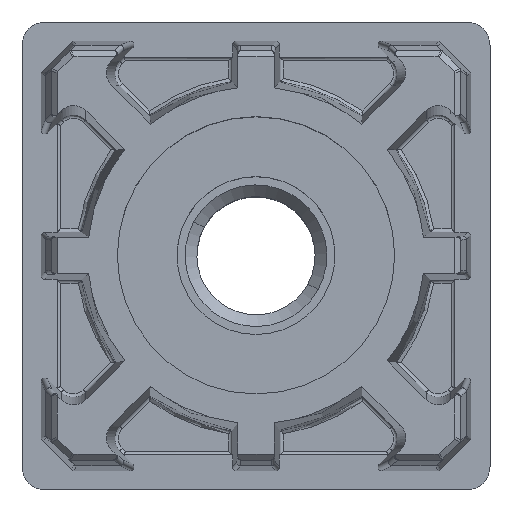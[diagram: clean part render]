
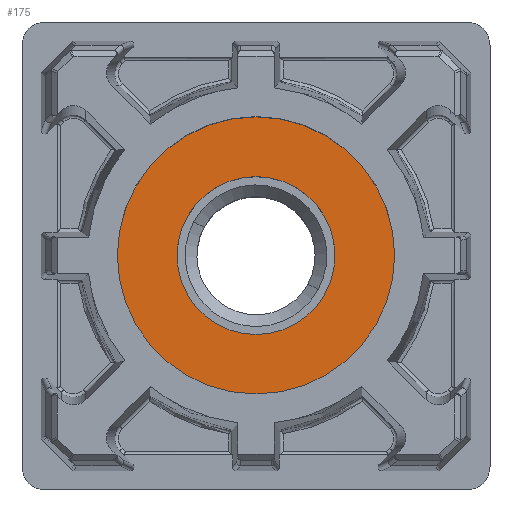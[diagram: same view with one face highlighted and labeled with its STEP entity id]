
A CAD part, top view. The second image highlights one B-rep face of the part: STEP entity #175.
In plain terms, the highlighted planar face has unit normal (0, 0, 1).
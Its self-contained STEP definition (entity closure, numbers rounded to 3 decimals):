
#68=CARTESIAN_POINT('Axis2P3D Location',(0.,0.,30.5)) ;
#72=CARTESIAN_POINT('Vertex',(6.75,0.,30.5)) ;
#74=CARTESIAN_POINT('Vertex',(-6.75,0.,30.5)) ;
#103=CARTESIAN_POINT('Axis2P3D Location',(0.,0.,30.5)) ;
#148=CARTESIAN_POINT('Axis2P3D Location',(0.,0.,30.5)) ;
#153=CARTESIAN_POINT('Axis2P3D Location',(0.,0.,30.5)) ;
#157=CARTESIAN_POINT('Vertex',(11.85,0.,30.5)) ;
#159=CARTESIAN_POINT('Vertex',(-11.85,0.,30.5)) ;
#162=CARTESIAN_POINT('Axis2P3D Location',(0.,0.,30.5)) ;
#69=DIRECTION('Axis2P3D Direction',(0.,0.,-1.)) ;
#104=DIRECTION('Axis2P3D Direction',(0.,0.,-1.)) ;
#149=DIRECTION('Axis2P3D Direction',(0.,0.,1.)) ;
#150=DIRECTION('Axis2P3D XDirection',(1.,0.,0.)) ;
#154=DIRECTION('Axis2P3D Direction',(0.,0.,1.)) ;
#163=DIRECTION('Axis2P3D Direction',(0.,0.,1.)) ;
#70=AXIS2_PLACEMENT_3D('Circle Axis2P3D',#68,#69,$) ;
#105=AXIS2_PLACEMENT_3D('Circle Axis2P3D',#103,#104,$) ;
#151=AXIS2_PLACEMENT_3D('Plane Axis2P3D',#148,#149,#150) ;
#155=AXIS2_PLACEMENT_3D('Circle Axis2P3D',#153,#154,$) ;
#164=AXIS2_PLACEMENT_3D('Circle Axis2P3D',#162,#163,$) ;
#168=ORIENTED_EDGE('',*,*,#161,.T.) ;
#169=ORIENTED_EDGE('',*,*,#166,.T.) ;
#172=ORIENTED_EDGE('',*,*,#107,.F.) ;
#173=ORIENTED_EDGE('',*,*,#76,.F.) ;
#174=FACE_BOUND('',#171,.T.) ;
#175=ADVANCED_FACE('PartBody',(#170,#174),#152,.T.) ;
#71=CIRCLE('generated circle',#70,6.75) ;
#106=CIRCLE('generated circle',#105,6.75) ;
#156=CIRCLE('generated circle',#155,11.85) ;
#165=CIRCLE('generated circle',#164,11.85) ;
#76=EDGE_CURVE('',#73,#75,#71,.F.) ;
#107=EDGE_CURVE('',#75,#73,#106,.F.) ;
#161=EDGE_CURVE('',#158,#160,#156,.T.) ;
#166=EDGE_CURVE('',#160,#158,#165,.T.) ;
#167=EDGE_LOOP('',(#168,#169)) ;
#171=EDGE_LOOP('',(#172,#173)) ;
#170=FACE_OUTER_BOUND('',#167,.T.) ;
#152=PLANE('',#151) ;
#73=VERTEX_POINT('',#72) ;
#75=VERTEX_POINT('',#74) ;
#158=VERTEX_POINT('',#157) ;
#160=VERTEX_POINT('',#159) ;
